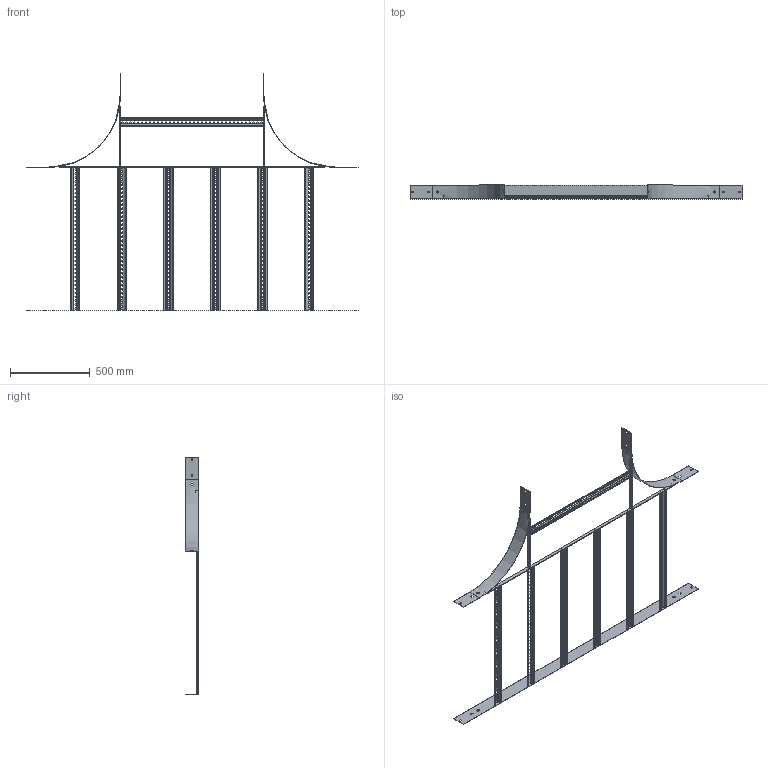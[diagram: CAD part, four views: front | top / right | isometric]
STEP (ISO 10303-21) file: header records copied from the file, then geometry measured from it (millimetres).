
FILE_DESCRIPTION (( 'STEP AP203' ), '1' );
FILE_NAME ('N2 T 9004.STEP', '2024-08-27T22:56:56', ( '' ), ( '' ), 'SwSTEP 2.0', 'SolidWorks 2023', '' );
FILE_SCHEMA (( 'CONFIG_CONTROL_DESIGN' ));
Length unit declared in the file: millimetre
Products named in the file (6): N2 RADIUS PLATE_N1-450 IR; Ladder Tee 20x5 Flat Bar_378; N2 Back Plate_2100; Ladder Rung_Ladder Rung -  900mm; N2 T 9004; Ladder Tee 20x5 Flat Bar_1666
Assembly tree (13 placements, depth 2):
  N2 T 9004
    N2 Back Plate_2100
    Ladder Rung_Ladder Rung -  900mm  x7
    Ladder Tee 20x5 Flat Bar_1666
    N2 RADIUS PLATE_N1-450 IR  x2
    Ladder Tee 20x5 Flat Bar_378  x2
Bounding box: 2085 x 87 x 1494.5 mm (x, y, z)
Volume: 1616462.7 mm3; surface area: 1727917.9 mm2
Topology: 13 solids, 13 shells, 1414 faces, 3924 edges, 2536 vertices
Faces by surface type: plane 1342, cylinder 72
Entity records: 9356 total; most frequent: CARTESIAN_POINT 1774, ORIENTED_EDGE 1408, DIRECTION 1272, EDGE_CURVE 704, VECTOR 668, LINE 668, VERTEX_POINT 456, EDGE_LOOP 352
